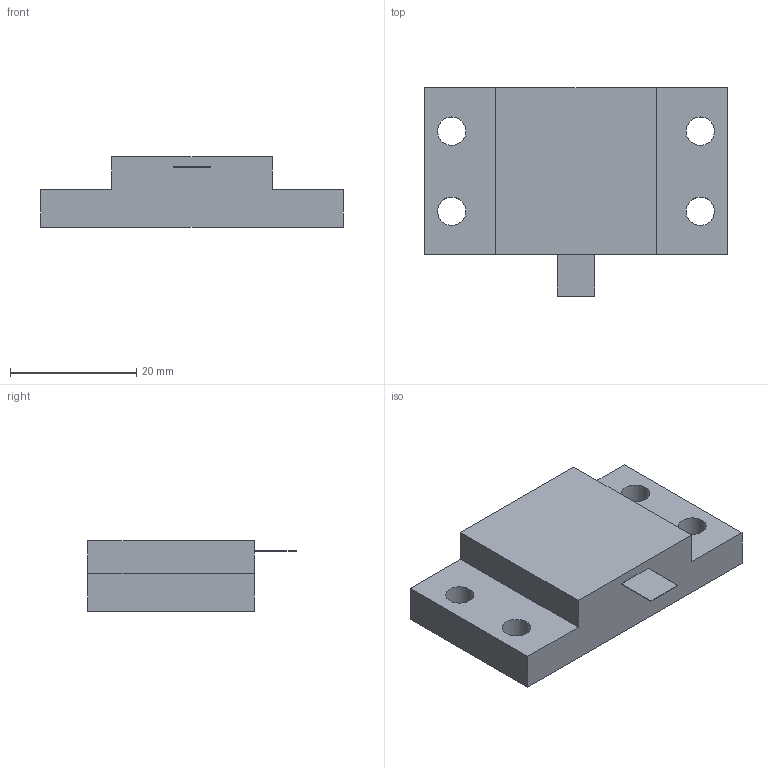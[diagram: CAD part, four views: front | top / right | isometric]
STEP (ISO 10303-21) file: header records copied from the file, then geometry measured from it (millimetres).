
FILE_DESCRIPTION(('STEP AP203'), '1');
FILE_NAME('P1-170-1000-47', '', ('UNSPECIFIED'), ('UNSPECIFIED'), 'ASCON STEP Converter 1.6', 'ASCON Math Kernel', '');
FILE_SCHEMA(('CONFIG_CONTROL_DESIGN'));
Length unit declared in the file: millimetre
Bounding box: 48 x 33 x 11.2 mm (x, y, z)
Volume: 10712.4 mm3; surface area: 4258.5 mm2
Topology: 1 solids, 1 shells, 19 faces, 48 edges, 32 vertices
Faces by surface type: plane 15, cylinder 4
Full cylindrical faces by diameter (mm): 4.5 x4
Entity records: 762 total; most frequent: CARTESIAN_POINT 96, DIRECTION 92, ORIENTED_EDGE 88, EDGE_CURVE 44, LINE 36, VECTOR 36, EDGE_LOOP 32, VERTEX_POINT 32
